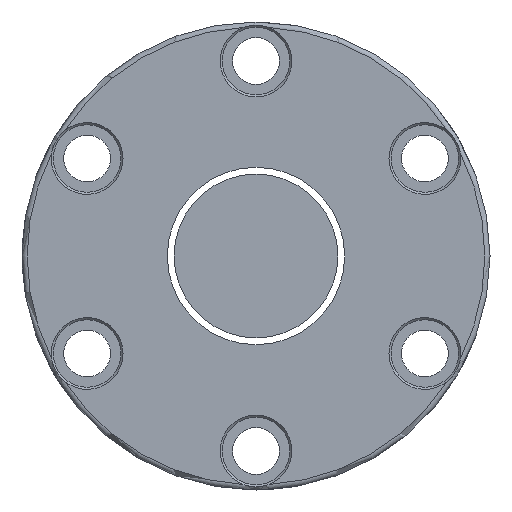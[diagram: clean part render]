
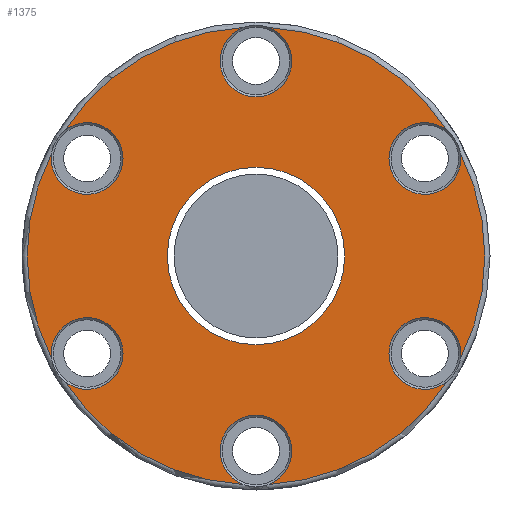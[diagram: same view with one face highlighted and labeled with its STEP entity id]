
A CAD part, left-side view. The second image highlights one B-rep face of the part: STEP entity #1375.
In plain terms, the highlighted planar face has unit normal (-1, 0, 0).
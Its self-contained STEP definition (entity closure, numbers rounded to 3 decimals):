
#20 = AXIS2_PLACEMENT_3D ( 'NONE', #1266, #1212, #2828 ) ;
#31 = DIRECTION ( 'NONE',  ( -1., 0., 0. ) ) ;
#69 = VERTEX_POINT ( 'NONE', #1138 ) ;
#91 = DIRECTION ( 'NONE',  ( 0., 0., -1. ) ) ;
#100 = VERTEX_POINT ( 'NONE', #129 ) ;
#129 = CARTESIAN_POINT ( 'NONE',  ( -120., 73.58, 48.27 ) ) ;
#170 = EDGE_CURVE ( 'NONE', #100, #69, #964, .T. ) ;
#241 = CARTESIAN_POINT ( 'NONE',  ( -120., 0., -34.1 ) ) ;
#249 = CIRCLE ( 'NONE', #299, 88. ) ;
#259 = FACE_OUTER_BOUND ( 'NONE', #857, .T. ) ;
#299 = AXIS2_PLACEMENT_3D ( 'NONE', #2287, #3109, #2338 ) ;
#353 = CARTESIAN_POINT ( 'NONE',  ( -120., 64.952, 37.5 ) ) ;
#390 = VERTEX_POINT ( 'NONE', #2210 ) ;
#430 = EDGE_CURVE ( 'NONE', #597, #390, #3099, .T. ) ;
#435 = CARTESIAN_POINT ( 'NONE',  ( -120., 0., 75. ) ) ;
#449 = EDGE_CURVE ( 'NONE', #390, #2650, #2755, .T. ) ;
#457 = EDGE_CURVE ( 'NONE', #1716, #1022, #1537, .T. ) ;
#513 = CIRCLE ( 'NONE', #1520, 88. ) ;
#560 = EDGE_CURVE ( 'NONE', #1548, #1389, #249, .T. ) ;
#597 = VERTEX_POINT ( 'NONE', #756 ) ;
#613 = DIRECTION ( 'NONE',  ( 0., 0., 1. ) ) ;
#630 = AXIS2_PLACEMENT_3D ( 'NONE', #2350, #1335, #1602 ) ;
#675 = CIRCLE ( 'NONE', #1801, 88. ) ;
#724 = CARTESIAN_POINT ( 'NONE',  ( -120., 0., 0. ) ) ;
#737 = CARTESIAN_POINT ( 'NONE',  ( -120., -64.952, 37.5 ) ) ;
#738 = CARTESIAN_POINT ( 'NONE',  ( -120., 5.014, -87.857 ) ) ;
#756 = CARTESIAN_POINT ( 'NONE',  ( -120., -78.593, -39.587 ) ) ;
#757 = CARTESIAN_POINT ( 'NONE',  ( -120., 78.593, -39.587 ) ) ;
#763 = CARTESIAN_POINT ( 'NONE',  ( -120., -73.58, 48.27 ) ) ;
#789 = EDGE_CURVE ( 'NONE', #1686, #1548, #1599, .T. ) ;
#857 = EDGE_LOOP ( 'NONE', ( #2883, #3319, #2211, #2557, #2537, #2632, #3147, #1881, #2235, #2077, #2810, #1978 ) ) ;
#927 = VERTEX_POINT ( 'NONE', #2169 ) ;
#964 = CIRCLE ( 'NONE', #1193, 13.8 ) ;
#1004 = DIRECTION ( 'NONE',  ( 0., 0., 1. ) ) ;
#1022 = VERTEX_POINT ( 'NONE', #1451 ) ;
#1094 = DIRECTION ( 'NONE',  ( 0., 0., 1. ) ) ;
#1138 = CARTESIAN_POINT ( 'NONE',  ( -120., 78.593, 39.587 ) ) ;
#1148 = EDGE_CURVE ( 'NONE', #1389, #597, #1422, .T. ) ;
#1193 = AXIS2_PLACEMENT_3D ( 'NONE', #353, #2229, #3298 ) ;
#1196 = AXIS2_PLACEMENT_3D ( 'NONE', #724, #3208, #1004 ) ;
#1212 = DIRECTION ( 'NONE',  ( 1., 0., 0. ) ) ;
#1237 = DIRECTION ( 'NONE',  ( 0., 0., 1. ) ) ;
#1252 = AXIS2_PLACEMENT_3D ( 'NONE', #2868, #3136, #1755 ) ;
#1266 = CARTESIAN_POINT ( 'NONE',  ( -120., 64.952, -37.5 ) ) ;
#1335 = DIRECTION ( 'NONE',  ( -1., 0., 0. ) ) ;
#1375 = ADVANCED_FACE ( 'NONE', ( #259, #3191 ), #1802, .T. ) ;
#1389 = VERTEX_POINT ( 'NONE', #3445 ) ;
#1411 = EDGE_CURVE ( 'NONE', #1951, #100, #2481, .T. ) ;
#1422 = CIRCLE ( 'NONE', #1252, 13.8 ) ;
#1451 = CARTESIAN_POINT ( 'NONE',  ( -120., 73.58, -48.27 ) ) ;
#1453 = CARTESIAN_POINT ( 'NONE',  ( -120., 0., 0. ) ) ;
#1506 = CARTESIAN_POINT ( 'NONE',  ( -120., 0., 0. ) ) ;
#1516 = DIRECTION ( 'NONE',  ( 1., 0., 0. ) ) ;
#1518 = DIRECTION ( 'NONE',  ( 1., 0., 0. ) ) ;
#1520 = AXIS2_PLACEMENT_3D ( 'NONE', #1453, #31, #1094 ) ;
#1537 = CIRCLE ( 'NONE', #20, 13.8 ) ;
#1541 = AXIS2_PLACEMENT_3D ( 'NONE', #3371, #1516, #2639 ) ;
#1548 = VERTEX_POINT ( 'NONE', #1989 ) ;
#1564 = CARTESIAN_POINT ( 'NONE',  ( -120., 5.014, 87.857 ) ) ;
#1597 = EDGE_CURVE ( 'NONE', #1804, #1804, #3079, .T. ) ;
#1599 = CIRCLE ( 'NONE', #1541, 13.8 ) ;
#1602 = DIRECTION ( 'NONE',  ( 0., 0., 1. ) ) ;
#1686 = VERTEX_POINT ( 'NONE', #738 ) ;
#1716 = VERTEX_POINT ( 'NONE', #757 ) ;
#1755 = DIRECTION ( 'NONE',  ( 0., 0., 1. ) ) ;
#1801 = AXIS2_PLACEMENT_3D ( 'NONE', #1506, #1806, #3154 ) ;
#1802 = PLANE ( 'NONE',  #2322 ) ;
#1804 = VERTEX_POINT ( 'NONE', #241 ) ;
#1806 = DIRECTION ( 'NONE',  ( -1., 0., 0. ) ) ;
#1837 = EDGE_LOOP ( 'NONE', ( #3139 ) ) ;
#1838 = DIRECTION ( 'NONE',  ( 0., 0., 1. ) ) ;
#1881 = ORIENTED_EDGE ( 'NONE', *, *, #560, .T. ) ;
#1950 = DIRECTION ( 'NONE',  ( -1., 0., 0. ) ) ;
#1951 = VERTEX_POINT ( 'NONE', #1564 ) ;
#1978 = ORIENTED_EDGE ( 'NONE', *, *, #3088, .T. ) ;
#1989 = CARTESIAN_POINT ( 'NONE',  ( -120., -5.014, -87.857 ) ) ;
#2020 = EDGE_CURVE ( 'NONE', #1022, #1686, #513, .T. ) ;
#2037 = AXIS2_PLACEMENT_3D ( 'NONE', #3282, #1950, #613 ) ;
#2077 = ORIENTED_EDGE ( 'NONE', *, *, #430, .T. ) ;
#2147 = CIRCLE ( 'NONE', #630, 88. ) ;
#2169 = CARTESIAN_POINT ( 'NONE',  ( -120., -5.014, 87.857 ) ) ;
#2210 = CARTESIAN_POINT ( 'NONE',  ( -120., -78.593, 39.587 ) ) ;
#2211 = ORIENTED_EDGE ( 'NONE', *, *, #170, .T. ) ;
#2229 = DIRECTION ( 'NONE',  ( 1., 0., 0. ) ) ;
#2235 = ORIENTED_EDGE ( 'NONE', *, *, #1148, .T. ) ;
#2241 = CIRCLE ( 'NONE', #2966, 13.8 ) ;
#2287 = CARTESIAN_POINT ( 'NONE',  ( -120., 0., 0. ) ) ;
#2303 = DIRECTION ( 'NONE',  ( 0., 0., 1. ) ) ;
#2305 = CARTESIAN_POINT ( 'NONE',  ( -120., 0., 0. ) ) ;
#2322 = AXIS2_PLACEMENT_3D ( 'NONE', #2675, #3173, #1838 ) ;
#2338 = DIRECTION ( 'NONE',  ( 0., 0., 1. ) ) ;
#2350 = CARTESIAN_POINT ( 'NONE',  ( -120., 0., 0. ) ) ;
#2481 = CIRCLE ( 'NONE', #1196, 88. ) ;
#2537 = ORIENTED_EDGE ( 'NONE', *, *, #457, .T. ) ;
#2549 = EDGE_CURVE ( 'NONE', #69, #1716, #675, .T. ) ;
#2557 = ORIENTED_EDGE ( 'NONE', *, *, #2549, .T. ) ;
#2632 = ORIENTED_EDGE ( 'NONE', *, *, #2020, .T. ) ;
#2639 = DIRECTION ( 'NONE',  ( 0., 0., 1. ) ) ;
#2650 = VERTEX_POINT ( 'NONE', #763 ) ;
#2675 = CARTESIAN_POINT ( 'NONE',  ( -120., 90., 0. ) ) ;
#2697 = EDGE_CURVE ( 'NONE', #927, #1951, #2241, .T. ) ;
#2755 = CIRCLE ( 'NONE', #3266, 13.8 ) ;
#2810 = ORIENTED_EDGE ( 'NONE', *, *, #449, .T. ) ;
#2828 = DIRECTION ( 'NONE',  ( 0., 0., 1. ) ) ;
#2868 = CARTESIAN_POINT ( 'NONE',  ( -120., -64.952, -37.5 ) ) ;
#2883 = ORIENTED_EDGE ( 'NONE', *, *, #2697, .T. ) ;
#2966 = AXIS2_PLACEMENT_3D ( 'NONE', #435, #3361, #1237 ) ;
#3079 = CIRCLE ( 'NONE', #3141, 34.1 ) ;
#3088 = EDGE_CURVE ( 'NONE', #2650, #927, #2147, .T. ) ;
#3091 = DIRECTION ( 'NONE',  ( 1., 0., 0. ) ) ;
#3099 = CIRCLE ( 'NONE', #2037, 88. ) ;
#3109 = DIRECTION ( 'NONE',  ( -1., 0., 0. ) ) ;
#3136 = DIRECTION ( 'NONE',  ( 1., 0., 0. ) ) ;
#3139 = ORIENTED_EDGE ( 'NONE', *, *, #1597, .T. ) ;
#3141 = AXIS2_PLACEMENT_3D ( 'NONE', #2305, #1518, #91 ) ;
#3147 = ORIENTED_EDGE ( 'NONE', *, *, #789, .T. ) ;
#3154 = DIRECTION ( 'NONE',  ( 0., 0., 1. ) ) ;
#3173 = DIRECTION ( 'NONE',  ( -1., 0., 0. ) ) ;
#3191 = FACE_BOUND ( 'NONE', #1837, .T. ) ;
#3208 = DIRECTION ( 'NONE',  ( -1., 0., 0. ) ) ;
#3266 = AXIS2_PLACEMENT_3D ( 'NONE', #737, #3091, #2303 ) ;
#3282 = CARTESIAN_POINT ( 'NONE',  ( -120., 0., 0. ) ) ;
#3298 = DIRECTION ( 'NONE',  ( 0., 0., 1. ) ) ;
#3319 = ORIENTED_EDGE ( 'NONE', *, *, #1411, .T. ) ;
#3361 = DIRECTION ( 'NONE',  ( 1., 0., 0. ) ) ;
#3371 = CARTESIAN_POINT ( 'NONE',  ( -120., 0., -75. ) ) ;
#3445 = CARTESIAN_POINT ( 'NONE',  ( -120., -73.58, -48.27 ) ) ;
